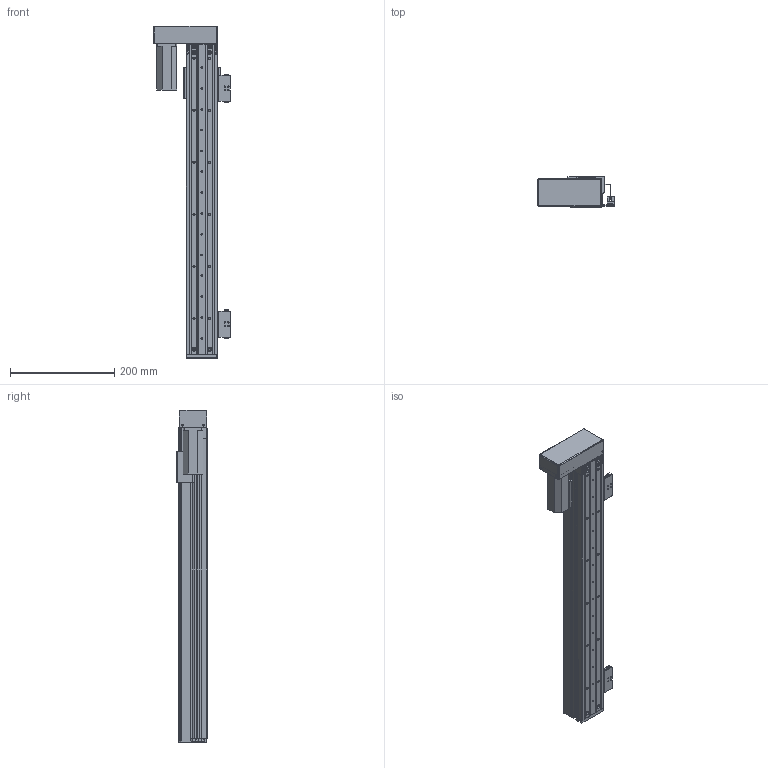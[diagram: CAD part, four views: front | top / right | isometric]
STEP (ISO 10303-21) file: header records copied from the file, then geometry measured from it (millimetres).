
FILE_DESCRIPTION (( 'STEP AP203' ), '1' );
FILE_NAME ('RY60FB-L1210-300-LK.SLDASM_450.step', '2021-02-23T01:00:54', ( '盈信电脑' ), ( '东莞市道滘镇水果街19号' ), 'SwSTEP 2.0', 'SolidWorks 2012', '' );
FILE_SCHEMA (( 'CONFIG_CONTROL_DESIGN' ));
Length unit declared in the file: millimetre
Products named in the file (14): RY60FB-L1210-300-LK.SLDASM_450; 覜茼ん674; RY80俋离覜茼え; RY60FB-674嫖萇耀輸; RY60FB-感应器674光电安装座; RY60FB转折电机端支撑座; RY60FB綴裔啣; RY60FB-左右折电机安装板; RY60FB-蛌殏萇儂欶; RY60FB-蛌殏奻裔-300-LK_450; 侂狟100W; 滅袉蝶18-10; RY60FB-臏賑輸; RY60FB-蛌殏菁釱-300-LK_450
Assembly tree (18 placements, depth 3):
  RY60FB-L1210-300-LK.SLDASM_450
    RY60FB-蛌殏菁釱-300-LK_450
    RY60FB-臏賑輸
    滅袉蝶18-10  x4
    RY60FB-蛌殏奻裔-300-LK_450
    侂狟100W
    RY60FB綴裔啣
    RY60FB转折电机端支撑座
    RY60FB-左右折电机安装板
    RY60FB-蛌殏萇儂欶
    RY60FB-674嫖萇耀輸  x2
      RY60FB-感应器674光电安装座
      覜茼ん674
    RY80俋离覜茼え
Bounding box: 147.75 x 58.5 x 638 mm (x, y, z)
Volume: 865778.6 mm3; surface area: 478514.3 mm2
Topology: 19 solids, 19 shells, 1161 faces, 3158 edges, 2014 vertices
Faces by surface type: plane 591, cylinder 465, cone 97, bspline 8
Entity records: 31346 total; most frequent: CARTESIAN_POINT 6126, DIRECTION 4976, ORIENTED_EDGE 4868, EDGE_CURVE 2434, AXIS2_PLACEMENT_3D 1738, VERTEX_POINT 1576, LINE 1500, VECTOR 1500
